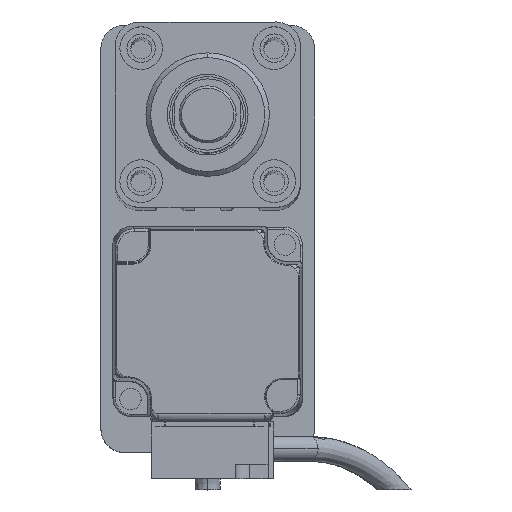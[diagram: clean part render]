
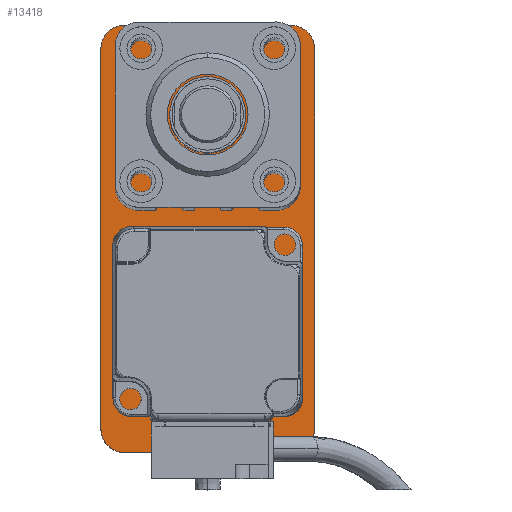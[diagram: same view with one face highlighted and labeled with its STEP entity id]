
A CAD part, top view. The second image highlights one B-rep face of the part: STEP entity #13418.
In plain terms, the highlighted planar face has unit normal (0, 0, 1).
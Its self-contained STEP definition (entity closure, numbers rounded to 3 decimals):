
#462 = DIRECTION ( 'NONE',  ( -1., 0., 0. ) ) ;
#875 = PLANE ( 'NONE',  #16071 ) ;
#1539 = CARTESIAN_POINT ( 'NONE',  ( -17.5, 45., 10. ) ) ;
#1996 = CARTESIAN_POINT ( 'NONE',  ( 22.5, 40., 10. ) ) ;
#2869 = EDGE_CURVE ( 'NONE', #19692, #27060, #8656, .T. ) ;
#3158 = ORIENTED_EDGE ( 'NONE', *, *, #5760, .T. ) ;
#3301 = EDGE_LOOP ( 'NONE', ( #23286, #24492, #7386, #6760, #6971, #17787, #3158, #22694 ) ) ;
#4086 = CARTESIAN_POINT ( 'NONE',  ( 17.5, -40., 10. ) ) ;
#5760 = EDGE_CURVE ( 'NONE', #29762, #25874, #9984, .T. ) ;
#5890 = VERTEX_POINT ( 'NONE', #18148 ) ;
#6298 = AXIS2_PLACEMENT_3D ( 'NONE', #22384, #22578, #15365 ) ;
#6760 = ORIENTED_EDGE ( 'NONE', *, *, #24211, .T. ) ;
#6971 = ORIENTED_EDGE ( 'NONE', *, *, #16154, .T. ) ;
#7386 = ORIENTED_EDGE ( 'NONE', *, *, #23962, .T. ) ;
#8201 = FACE_OUTER_BOUND ( 'NONE', #3301, .T. ) ;
#8656 = LINE ( 'NONE', #14278, #25713 ) ;
#9954 = DIRECTION ( 'NONE',  ( 0., 1., 0. ) ) ;
#9984 = LINE ( 'NONE', #10111, #24475 ) ;
#10111 = CARTESIAN_POINT ( 'NONE',  ( 22.5, -45., 10. ) ) ;
#10347 = DIRECTION ( 'NONE',  ( 0., -1., 0. ) ) ;
#10450 = DIRECTION ( 'NONE',  ( 0., 0., 1. ) ) ;
#10954 = CARTESIAN_POINT ( 'NONE',  ( -17.5, -45., 10. ) ) ;
#11242 = VECTOR ( 'NONE', #10347, 1000. ) ;
#11442 = DIRECTION ( 'NONE',  ( 0., 0., 1. ) ) ;
#12121 = EDGE_CURVE ( 'NONE', #27060, #24876, #14783, .T. ) ;
#12496 = DIRECTION ( 'NONE',  ( 1., 0., 0. ) ) ;
#12641 = CARTESIAN_POINT ( 'NONE',  ( -22.5, -45., 10. ) ) ;
#13200 = CARTESIAN_POINT ( 'NONE',  ( 17.5, -45., 10. ) ) ;
#13418 = ADVANCED_FACE ( 'NONE', ( #8201 ), #875, .T. ) ;
#13430 = DIRECTION ( 'NONE',  ( 0., 0., 1. ) ) ;
#13437 = AXIS2_PLACEMENT_3D ( 'NONE', #4086, #22658, #20208 ) ;
#14278 = CARTESIAN_POINT ( 'NONE',  ( 22.5, -45., 10. ) ) ;
#14394 = CIRCLE ( 'NONE', #6298, 5. ) ;
#14466 = CARTESIAN_POINT ( 'NONE',  ( 22.5, 45., 10. ) ) ;
#14534 = CARTESIAN_POINT ( 'NONE',  ( 22.5, -40., 10. ) ) ;
#14664 = VERTEX_POINT ( 'NONE', #1539 ) ;
#14783 = CIRCLE ( 'NONE', #25209, 5. ) ;
#15365 = DIRECTION ( 'NONE',  ( 1., 0., 0. ) ) ;
#16071 = AXIS2_PLACEMENT_3D ( 'NONE', #19741, #10450, #19531 ) ;
#16154 = EDGE_CURVE ( 'NONE', #16930, #5890, #17387, .T. ) ;
#16181 = DIRECTION ( 'NONE',  ( 1., 0., 0. ) ) ;
#16930 = VERTEX_POINT ( 'NONE', #29959 ) ;
#17387 = LINE ( 'NONE', #12641, #11242 ) ;
#17787 = ORIENTED_EDGE ( 'NONE', *, *, #19203, .T. ) ;
#17862 = CIRCLE ( 'NONE', #29108, 5. ) ;
#18148 = CARTESIAN_POINT ( 'NONE',  ( -22.5, -40., 10. ) ) ;
#18961 = CIRCLE ( 'NONE', #13437, 5. ) ;
#19203 = EDGE_CURVE ( 'NONE', #5890, #29762, #14394, .T. ) ;
#19531 = DIRECTION ( 'NONE',  ( 1., 0., 0. ) ) ;
#19692 = VERTEX_POINT ( 'NONE', #14534 ) ;
#19741 = CARTESIAN_POINT ( 'NONE',  ( 0., 0., 10. ) ) ;
#20208 = DIRECTION ( 'NONE',  ( 1., 0., 0. ) ) ;
#22252 = EDGE_CURVE ( 'NONE', #25874, #19692, #18961, .T. ) ;
#22321 = CARTESIAN_POINT ( 'NONE',  ( 17.5, 45., 10. ) ) ;
#22384 = CARTESIAN_POINT ( 'NONE',  ( -17.5, -40., 10. ) ) ;
#22578 = DIRECTION ( 'NONE',  ( 0., 0., 1. ) ) ;
#22658 = DIRECTION ( 'NONE',  ( 0., 0., 1. ) ) ;
#22694 = ORIENTED_EDGE ( 'NONE', *, *, #22252, .T. ) ;
#23286 = ORIENTED_EDGE ( 'NONE', *, *, #2869, .T. ) ;
#23962 = EDGE_CURVE ( 'NONE', #24876, #14664, #29168, .T. ) ;
#24211 = EDGE_CURVE ( 'NONE', #14664, #16930, #17862, .T. ) ;
#24362 = VECTOR ( 'NONE', #462, 1000. ) ;
#24475 = VECTOR ( 'NONE', #12496, 1000. ) ;
#24492 = ORIENTED_EDGE ( 'NONE', *, *, #12121, .T. ) ;
#24876 = VERTEX_POINT ( 'NONE', #22321 ) ;
#25110 = CARTESIAN_POINT ( 'NONE',  ( -17.5, 40., 10. ) ) ;
#25209 = AXIS2_PLACEMENT_3D ( 'NONE', #27579, #11442, #16181 ) ;
#25322 = DIRECTION ( 'NONE',  ( 1., 0., 0. ) ) ;
#25713 = VECTOR ( 'NONE', #9954, 1000. ) ;
#25874 = VERTEX_POINT ( 'NONE', #13200 ) ;
#27060 = VERTEX_POINT ( 'NONE', #1996 ) ;
#27579 = CARTESIAN_POINT ( 'NONE',  ( 17.5, 40., 10. ) ) ;
#29108 = AXIS2_PLACEMENT_3D ( 'NONE', #25110, #13430, #25322 ) ;
#29168 = LINE ( 'NONE', #14466, #24362 ) ;
#29762 = VERTEX_POINT ( 'NONE', #10954 ) ;
#29959 = CARTESIAN_POINT ( 'NONE',  ( -22.5, 40., 10. ) ) ;
